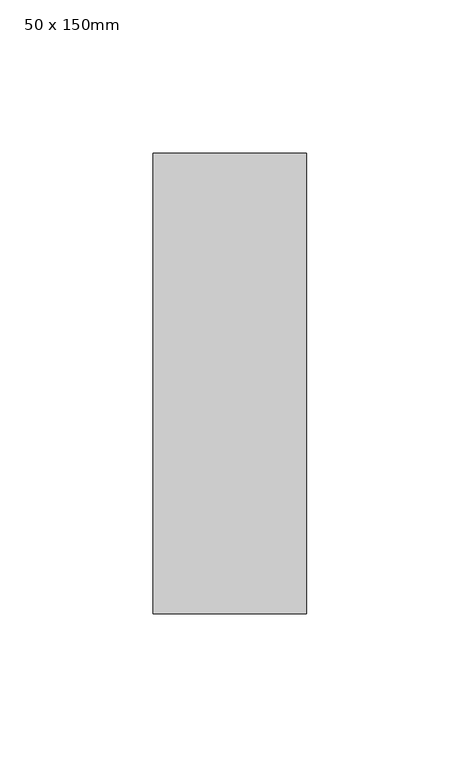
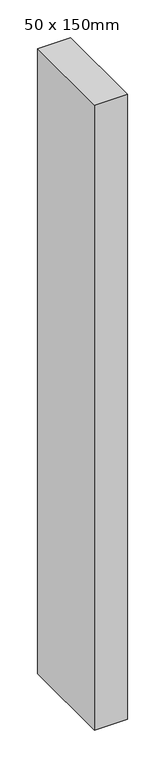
"""IFC4 building model written with IfcOpenShell, lengths in millimetres: member geometry, 矩形豎框 : 50 x 150mm."""

from ifc_helpers import new_model, si_unit, frame, origin, place, context, project, spatial, polyline, outline, extrude, source, transform, mapped, element, save


def member_50_x_150mm_8b7169f3(model_context):
    return source(origin(), model_context, "Body", "SweptSolid", [
        extrude(outline(polyline([(0.0, 75.0), (0.0, -75.0), (-50.0, -75.0), (-50.0, 75.0), (0.0, 75.0)])), frame((0.0, 0.0, -1006.6666667), z_axis=(0.0, 0.0, 1.0), x_axis=(1.0, 0.0, 0.0)), (0.0, 0.0, 1.0), 1006.6666667),
    ])


if __name__ == "__main__":
    model = new_model("IFC4")
    model_context = context("Model", 3, world=origin())
    ifc_project = project(units=[si_unit("LENGTHUNIT", "METRE", prefix="MILLI")], contexts=[model_context])
    site = spatial("IfcSite", under=ifc_project)
    building = spatial("IfcBuilding", under=site)
    placement = place(None, origin())
    member_50_x_150mm_shape = member_50_x_150mm_8b7169f3(model_context)
    element("IfcMember", 1, ObjectType="矩形豎框 : 50 x 150mm", at=placement, inside=building, context=model_context, shape_type="MappedRepresentation", body=[
        mapped(member_50_x_150mm_shape, transform((0.0, 0.0, 0.0), x_axis=(1.0, 0.0, 0.0), y_axis=(0.0, 1.0, 0.0), z_axis=(0.0, 0.0, 1.0))),
    ])
    save(model, "model.ifc")
